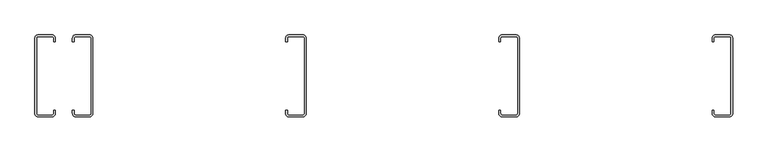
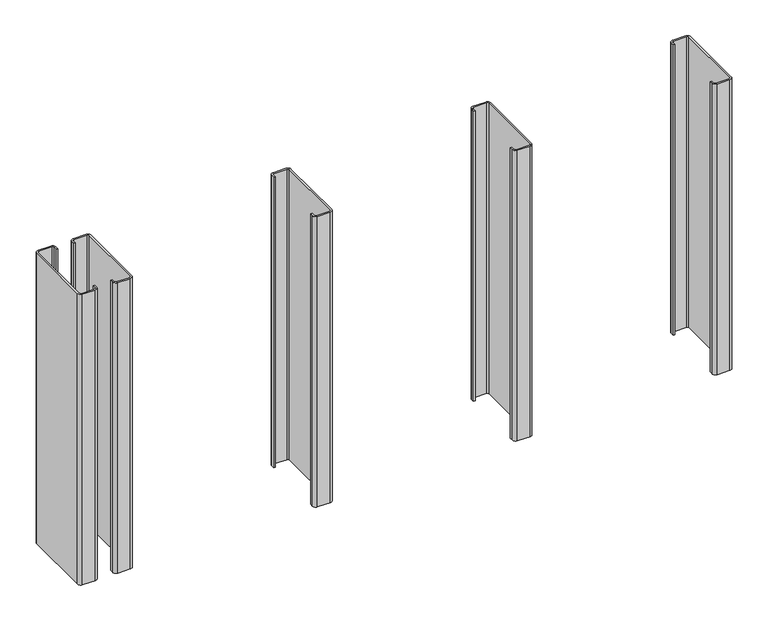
"""IFC4 building model written with IfcOpenShell, lengths in millimetres: proxy geometry, Durabond Generic Model Metal Stud Array Right : CRAi Generic Model Metal Stud Array."""

from ifc_helpers import new_model, si_unit, point, frame_2d, origin, origin_with_axes, place, context, project, spatial, polyline, circle_curve, trimmed, segment, composite_curve, outline, extrude, source, transform, mapped, element, save


def generic_models_036b76f6(model_context):
    return source(origin(), model_context, "Body", "SweptSolid", [
        extrude(outline(composite_curve([segment(polyline([(1239.865, -63.5), (1243.04, -63.5), (1243.04, -70.2679713)]), True, "CONTINUOUS"), segment(trimmed(circle_curve(frame_2d((1246.215, -69.85)), 3.2023936), [point((1243.04, -70.2679713))], [point((1245.7970287, -73.025))], True, "CARTESIAN"), True, "CONTINUOUS"), segment(polyline([(1245.7970287, -73.025), (1272.0329713, -73.025)]), True, "CONTINUOUS"), segment(trimmed(circle_curve(frame_2d((1271.615, -69.85)), 3.2023936), [point((1272.0329713, -73.025))], [point((1274.79, -70.2679713))], True, "CARTESIAN"), True, "CONTINUOUS"), segment(polyline([(1274.79, -70.2679713), (1274.79, 70.2679713)]), True, "CONTINUOUS"), segment(trimmed(circle_curve(frame_2d((1271.615, 69.85)), 3.2023936), [point((1274.79, 70.2679713))], [point((1272.0329713, 73.025))], True, "CARTESIAN"), True, "CONTINUOUS"), segment(polyline([(1272.0329713, 73.025), (1245.7970287, 73.025)]), True, "CONTINUOUS"), segment(trimmed(circle_curve(frame_2d((1246.215, 69.85)), 3.2023936), [point((1245.7970287, 73.025))], [point((1243.04, 70.2679713))], True, "CARTESIAN"), True, "CONTINUOUS"), segment(polyline([(1243.04, 70.2679713), (1243.04, 63.5), (1239.865, 63.5), (1239.865, 69.85)]), True, "CONTINUOUS"), segment(trimmed(circle_curve(frame_2d((1246.215, 69.85)), 6.35), [point((1239.865, 69.85))], [point((1246.215, 76.2))], False, "CARTESIAN"), True, "CONTINUOUS"), segment(polyline([(1246.215, 76.2), (1271.615, 76.2)]), True, "CONTINUOUS"), segment(trimmed(circle_curve(frame_2d((1271.615, 69.85)), 6.35), [point((1271.615, 76.2))], [point((1277.965, 69.85))], False, "CARTESIAN"), True, "CONTINUOUS"), segment(polyline([(1277.965, 69.85), (1277.965, -69.85)]), True, "CONTINUOUS"), segment(trimmed(circle_curve(frame_2d((1271.615, -69.85)), 6.35), [point((1277.965, -69.85))], [point((1271.615, -76.2))], False, "CARTESIAN"), True, "CONTINUOUS"), segment(polyline([(1271.615, -76.2), (1246.215, -76.2)]), True, "CONTINUOUS"), segment(trimmed(circle_curve(frame_2d((1246.215, -69.85)), 6.35), [point((1246.215, -76.2))], [point((1239.865, -69.85))], False, "CARTESIAN"), True, "CONTINUOUS"), segment(polyline([(1239.865, -69.85), (1239.865, -63.5)]), True, "CONTINUOUS")], self_intersect=False)), origin_with_axes(), (0.0, 0.0, 1.0), 609.6),
        extrude(outline(composite_curve([segment(polyline([(1636.735, -63.5), (1639.91, -63.5), (1639.91, -70.2679713)]), True, "CONTINUOUS"), segment(trimmed(circle_curve(frame_2d((1643.085, -69.85)), 3.2023936), [point((1639.91, -70.2679713))], [point((1642.6670287, -73.025))], True, "CARTESIAN"), True, "CONTINUOUS"), segment(polyline([(1642.6670287, -73.025), (1668.9029713, -73.025)]), True, "CONTINUOUS"), segment(trimmed(circle_curve(frame_2d((1668.485, -69.85)), 3.2023936), [point((1668.9029713, -73.025))], [point((1671.66, -70.2679713))], True, "CARTESIAN"), True, "CONTINUOUS"), segment(polyline([(1671.66, -70.2679713), (1671.66, 70.2679713)]), True, "CONTINUOUS"), segment(trimmed(circle_curve(frame_2d((1668.485, 69.85)), 3.2023936), [point((1671.66, 70.2679713))], [point((1668.9029713, 73.025))], True, "CARTESIAN"), True, "CONTINUOUS"), segment(polyline([(1668.9029713, 73.025), (1642.6670287, 73.025)]), True, "CONTINUOUS"), segment(trimmed(circle_curve(frame_2d((1643.085, 69.85)), 3.2023936), [point((1642.6670287, 73.025))], [point((1639.91, 70.2679713))], True, "CARTESIAN"), True, "CONTINUOUS"), segment(polyline([(1639.91, 70.2679713), (1639.91, 63.5), (1636.735, 63.5), (1636.735, 69.85)]), True, "CONTINUOUS"), segment(trimmed(circle_curve(frame_2d((1643.085, 69.85)), 6.35), [point((1636.735, 69.85))], [point((1643.085, 76.2))], False, "CARTESIAN"), True, "CONTINUOUS"), segment(polyline([(1643.085, 76.2), (1668.485, 76.2)]), True, "CONTINUOUS"), segment(trimmed(circle_curve(frame_2d((1668.485, 69.85)), 6.35), [point((1668.485, 76.2))], [point((1674.835, 69.85))], False, "CARTESIAN"), True, "CONTINUOUS"), segment(polyline([(1674.835, 69.85), (1674.835, -69.85)]), True, "CONTINUOUS"), segment(trimmed(circle_curve(frame_2d((1668.485, -69.85)), 6.35), [point((1674.835, -69.85))], [point((1668.485, -76.2))], False, "CARTESIAN"), True, "CONTINUOUS"), segment(polyline([(1668.485, -76.2), (1643.085, -76.2)]), True, "CONTINUOUS"), segment(trimmed(circle_curve(frame_2d((1643.085, -69.85)), 6.35), [point((1643.085, -76.2))], [point((1636.735, -69.85))], False, "CARTESIAN"), True, "CONTINUOUS"), segment(polyline([(1636.735, -69.85), (1636.735, -63.5)]), True, "CONTINUOUS")], self_intersect=False)), origin_with_axes(), (0.0, 0.0, 1.0), 609.6),
        extrude(outline(composite_curve([segment(polyline([(2033.605, -63.5), (2036.78, -63.5), (2036.78, -70.2679713)]), True, "CONTINUOUS"), segment(trimmed(circle_curve(frame_2d((2039.955, -69.85)), 3.2023936), [point((2036.78, -70.2679713))], [point((2039.5370287, -73.025))], True, "CARTESIAN"), True, "CONTINUOUS"), segment(polyline([(2039.5370287, -73.025), (2065.7729713, -73.025)]), True, "CONTINUOUS"), segment(trimmed(circle_curve(frame_2d((2065.355, -69.85)), 3.2023936), [point((2065.7729713, -73.025))], [point((2068.53, -70.2679713))], True, "CARTESIAN"), True, "CONTINUOUS"), segment(polyline([(2068.53, -70.2679713), (2068.53, 70.2679713)]), True, "CONTINUOUS"), segment(trimmed(circle_curve(frame_2d((2065.355, 69.85)), 3.2023936), [point((2068.53, 70.2679713))], [point((2065.7729713, 73.025))], True, "CARTESIAN"), True, "CONTINUOUS"), segment(polyline([(2065.7729713, 73.025), (2039.5370287, 73.025)]), True, "CONTINUOUS"), segment(trimmed(circle_curve(frame_2d((2039.955, 69.85)), 3.2023936), [point((2039.5370287, 73.025))], [point((2036.78, 70.2679713))], True, "CARTESIAN"), True, "CONTINUOUS"), segment(polyline([(2036.78, 70.2679713), (2036.78, 63.5), (2033.605, 63.5), (2033.605, 69.85)]), True, "CONTINUOUS"), segment(trimmed(circle_curve(frame_2d((2039.955, 69.85)), 6.35), [point((2033.605, 69.85))], [point((2039.955, 76.2))], False, "CARTESIAN"), True, "CONTINUOUS"), segment(polyline([(2039.955, 76.2), (2065.355, 76.2)]), True, "CONTINUOUS"), segment(trimmed(circle_curve(frame_2d((2065.355, 69.85)), 6.35), [point((2065.355, 76.2))], [point((2071.705, 69.85))], False, "CARTESIAN"), True, "CONTINUOUS"), segment(polyline([(2071.705, 69.85), (2071.705, -69.85)]), True, "CONTINUOUS"), segment(trimmed(circle_curve(frame_2d((2065.355, -69.85)), 6.35), [point((2071.705, -69.85))], [point((2065.355, -76.2))], False, "CARTESIAN"), True, "CONTINUOUS"), segment(polyline([(2065.355, -76.2), (2039.955, -76.2)]), True, "CONTINUOUS"), segment(trimmed(circle_curve(frame_2d((2039.955, -69.85)), 6.35), [point((2039.955, -76.2))], [point((2033.605, -69.85))], False, "CARTESIAN"), True, "CONTINUOUS"), segment(polyline([(2033.605, -69.85), (2033.605, -63.5)]), True, "CONTINUOUS")], self_intersect=False)), origin_with_axes(), (0.0, 0.0, 1.0), 609.6),
        extrude(outline(composite_curve([segment(polyline([(2430.475, -63.5), (2433.65, -63.5), (2433.65, -70.2679713)]), True, "CONTINUOUS"), segment(trimmed(circle_curve(frame_2d((2436.825, -69.85)), 3.2023936), [point((2433.65, -70.2679713))], [point((2436.4070287, -73.025))], True, "CARTESIAN"), True, "CONTINUOUS"), segment(polyline([(2436.4070287, -73.025), (2462.6429713, -73.025)]), True, "CONTINUOUS"), segment(trimmed(circle_curve(frame_2d((2462.225, -69.85)), 3.2023936), [point((2462.6429713, -73.025))], [point((2465.4, -70.2679713))], True, "CARTESIAN"), True, "CONTINUOUS"), segment(polyline([(2465.4, -70.2679713), (2465.4, 70.2679713)]), True, "CONTINUOUS"), segment(trimmed(circle_curve(frame_2d((2462.225, 69.85)), 3.2023936), [point((2465.4, 70.2679713))], [point((2462.6429713, 73.025))], True, "CARTESIAN"), True, "CONTINUOUS"), segment(polyline([(2462.6429713, 73.025), (2436.4070287, 73.025)]), True, "CONTINUOUS"), segment(trimmed(circle_curve(frame_2d((2436.825, 69.85)), 3.2023936), [point((2436.4070287, 73.025))], [point((2433.65, 70.2679713))], True, "CARTESIAN"), True, "CONTINUOUS"), segment(polyline([(2433.65, 70.2679713), (2433.65, 63.5), (2430.475, 63.5), (2430.475, 69.85)]), True, "CONTINUOUS"), segment(trimmed(circle_curve(frame_2d((2436.825, 69.85)), 6.35), [point((2430.475, 69.85))], [point((2436.825, 76.2))], False, "CARTESIAN"), True, "CONTINUOUS"), segment(polyline([(2436.825, 76.2), (2462.225, 76.2)]), True, "CONTINUOUS"), segment(trimmed(circle_curve(frame_2d((2462.225, 69.85)), 6.35), [point((2462.225, 76.2))], [point((2468.575, 69.85))], False, "CARTESIAN"), True, "CONTINUOUS"), segment(polyline([(2468.575, 69.85), (2468.575, -69.85)]), True, "CONTINUOUS"), segment(trimmed(circle_curve(frame_2d((2462.225, -69.85)), 6.35), [point((2468.575, -69.85))], [point((2462.225, -76.2))], False, "CARTESIAN"), True, "CONTINUOUS"), segment(polyline([(2462.225, -76.2), (2436.825, -76.2)]), True, "CONTINUOUS"), segment(trimmed(circle_curve(frame_2d((2436.825, -69.85)), 6.35), [point((2436.825, -76.2))], [point((2430.475, -69.85))], False, "CARTESIAN"), True, "CONTINUOUS"), segment(polyline([(2430.475, -69.85), (2430.475, -63.5)]), True, "CONTINUOUS")], self_intersect=False)), origin_with_axes(), (0.0, 0.0, 1.0), 609.6),
        extrude(outline(composite_curve([segment(polyline([(1208.1, 63.5), (1204.925, 63.5), (1204.925, 70.2679713)]), True, "CONTINUOUS"), segment(trimmed(circle_curve(frame_2d((1201.75, 69.85)), 3.2023936), [point((1204.925, 70.2679713))], [point((1202.1679713, 73.025))], True, "CARTESIAN"), True, "CONTINUOUS"), segment(polyline([(1202.1679713, 73.025), (1175.9320287, 73.025)]), True, "CONTINUOUS"), segment(trimmed(circle_curve(frame_2d((1176.35, 69.85)), 3.2023936), [point((1175.9320287, 73.025))], [point((1173.175, 70.2679713))], True, "CARTESIAN"), True, "CONTINUOUS"), segment(polyline([(1173.175, 70.2679713), (1173.175, -70.2679713)]), True, "CONTINUOUS"), segment(trimmed(circle_curve(frame_2d((1176.35, -69.85)), 3.2023936), [point((1173.175, -70.2679713))], [point((1175.9320287, -73.025))], True, "CARTESIAN"), True, "CONTINUOUS"), segment(polyline([(1175.9320287, -73.025), (1202.1679713, -73.025)]), True, "CONTINUOUS"), segment(trimmed(circle_curve(frame_2d((1201.75, -69.85)), 3.2023936), [point((1202.1679713, -73.025))], [point((1204.925, -70.2679713))], True, "CARTESIAN"), True, "CONTINUOUS"), segment(polyline([(1204.925, -70.2679713), (1204.925, -63.5), (1208.1, -63.5), (1208.1, -69.85)]), True, "CONTINUOUS"), segment(trimmed(circle_curve(frame_2d((1201.75, -69.85)), 6.35), [point((1208.1, -69.85))], [point((1201.75, -76.2))], False, "CARTESIAN"), True, "CONTINUOUS"), segment(polyline([(1201.75, -76.2), (1176.35, -76.2)]), True, "CONTINUOUS"), segment(trimmed(circle_curve(frame_2d((1176.35, -69.85)), 6.35), [point((1176.35, -76.2))], [point((1170.0, -69.85))], False, "CARTESIAN"), True, "CONTINUOUS"), segment(polyline([(1170.0, -69.85), (1170.0, 69.85)]), True, "CONTINUOUS"), segment(trimmed(circle_curve(frame_2d((1176.35, 69.85)), 6.35), [point((1170.0, 69.85))], [point((1176.35, 76.2))], False, "CARTESIAN"), True, "CONTINUOUS"), segment(polyline([(1176.35, 76.2), (1201.75, 76.2)]), True, "CONTINUOUS"), segment(trimmed(circle_curve(frame_2d((1201.75, 69.85)), 6.35), [point((1201.75, 76.2))], [point((1208.1, 69.85))], False, "CARTESIAN"), True, "CONTINUOUS"), segment(polyline([(1208.1, 69.85), (1208.1, 63.5)]), True, "CONTINUOUS")], self_intersect=False)), origin_with_axes(), (0.0, 0.0, 1.0), 609.6),
    ])


if __name__ == "__main__":
    model = new_model("IFC4")
    model_context = context("Model", 3, world=origin())
    ifc_project = project(units=[si_unit("LENGTHUNIT", "METRE", prefix="MILLI")], contexts=[model_context])
    site = spatial("IfcSite", under=ifc_project)
    building = spatial("IfcBuilding", under=site)
    placement = place(None, origin())
    generic_models_shape = generic_models_036b76f6(model_context)
    element("IfcBuildingElementProxy", 1, Name="Durabond Generic Model Metal Stud Array Right : CRAi Generic Model Metal Stud Array", ObjectType="Durabond Generic Model Metal Stud Array Right : CRAi Generic Model Metal Stud Array", at=placement, inside=building, context=model_context, shape_type="MappedRepresentation", body=[
        mapped(generic_models_shape, transform((0.0, 0.0, 0.0), x_axis=(1.0, 0.0, 0.0), y_axis=(0.0, 1.0, 0.0), z_axis=(0.0, 0.0, 1.0))),
    ])
    save(model, "model.ifc")
